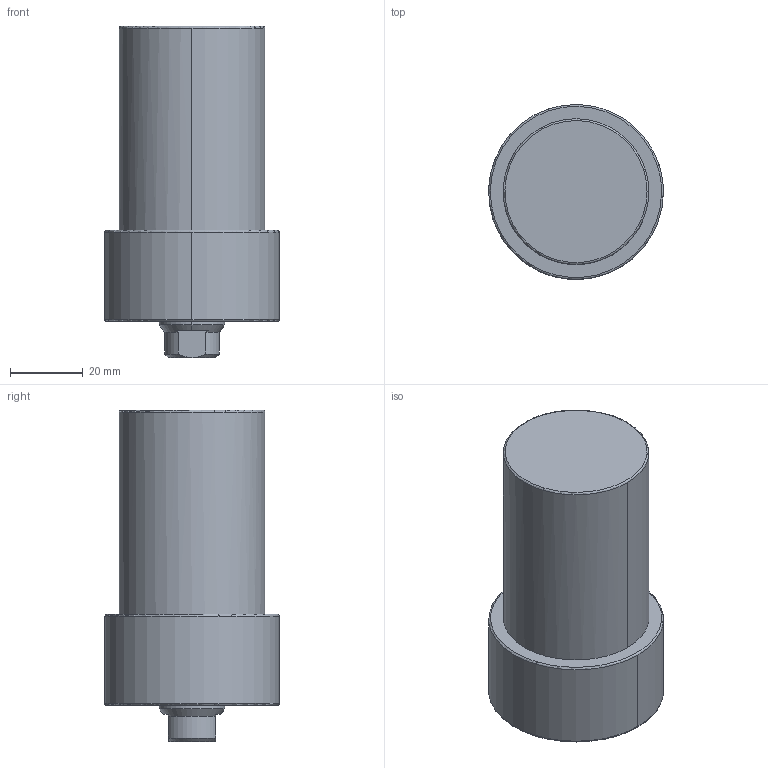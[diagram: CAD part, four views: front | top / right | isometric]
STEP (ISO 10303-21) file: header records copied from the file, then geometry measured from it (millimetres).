
FILE_DESCRIPTION((' '),'2;1');
FILE_NAME( 'TLLU-040GA-045.STEP.stp', '2025-10-24T16:37:10', (' '), ('--- Datakit www.datakit.com---'), ' Datakit CrossCadWare V2024.1 Dec 21 2023', 'Mastercam 2025', ' ');
FILE_SCHEMA(('AUTOMOTIVE_DESIGN { 1 0 10303 214 1 1 1 1 }'));
Length unit declared in the file: millimetre
Products named in the file (1): TLLU-040GA-045
Bounding box: 47.99 x 48 x 91 mm (x, y, z)
Volume: 115622.8 mm3; surface area: 16020.9 mm2
Topology: 1 solids, 1 shells, 62 faces, 180 edges, 119 vertices
Faces by surface type: cone 24, cylinder 22, plane 10, torus 6
Entity records: 2106 total; most frequent: DIRECTION 402, CARTESIAN_POINT 388, ORIENTED_EDGE 340, AXIS2_PLACEMENT_3D 177, EDGE_CURVE 170, VERTEX_POINT 119, CIRCLE 114, EDGE_LOOP 71
